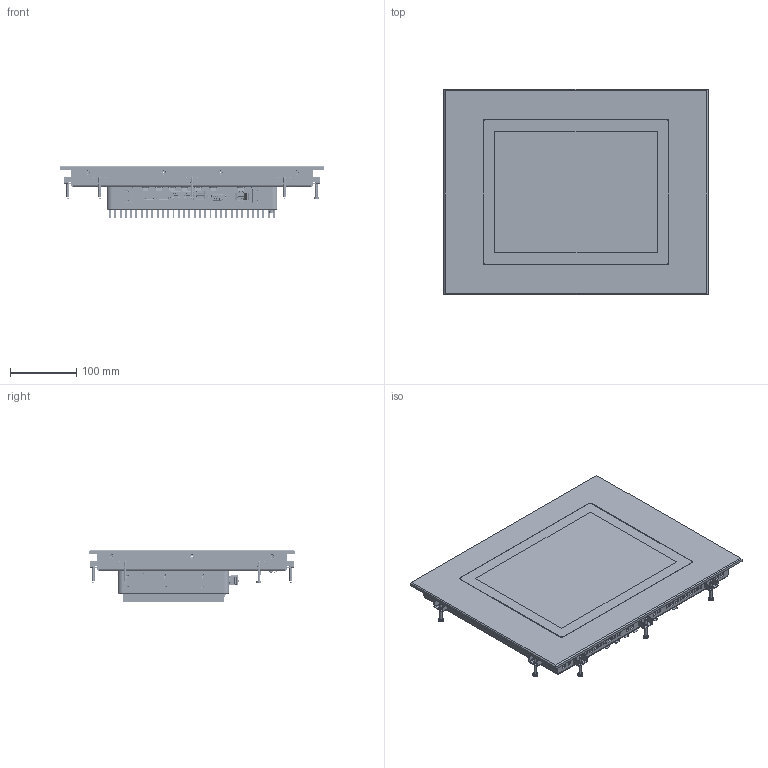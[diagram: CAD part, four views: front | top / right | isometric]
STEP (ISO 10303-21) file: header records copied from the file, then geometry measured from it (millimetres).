
FILE_DESCRIPTION(/* description */ (''),/* implementation_level */ '2;1');
FILE_NAME(/* name */ '778-11964-00_001.stp',/* time_stamp */ '2026-06-15T16:04:17+02:00',/* author */ ('Blessing'),/* organization */ ('TRsystems GmbH'),/* preprocessor_version */ 'ST-DEVELOPER v20',/* originating_system */ 'Autodesk Inventor 2024',/* authorisation */ '');
FILE_SCHEMA (('AUTOMOTIVE_DESIGN { 1 0 10303 214 3 1 1 }'));
Products named in the file (1): 778-11964-00_001
Bounding box: 400 x 310.3 x 79.2 mm (x, y, z)
Volume: 5082140 mm3; surface area: 520192.5 mm2
Topology: 2 solids, 10 shells, 9358 faces, 25544 edges, 16437 vertices
Faces by surface type: plane 6224, cylinder 2109, bspline 451, cone 298, torus 236, sphere 40
Full cylindrical faces by diameter (mm): 0.434 x1, 0.457 x1, 0.5 x26, 0.6 x16, 0.65 x2, 0.7 x2, 0.8 x20, 0.9 x2, 1.4 x2, 2.156 x2, 2.5 x2, 2.794 x2, 2.8 x2, 3.65 x10, 4 x22, 4.7 x8, 5.54 x18, 6 x11, 7 x1
Entity records: 326713 total; most frequent: CARTESIAN_POINT 80763, ORIENTED_EDGE 50794, DIRECTION 46576, EDGE_CURVE 25516, LINE 18694, VECTOR 18694, VERTEX_POINT 16461, AXIS2_PLACEMENT_3D 13941
